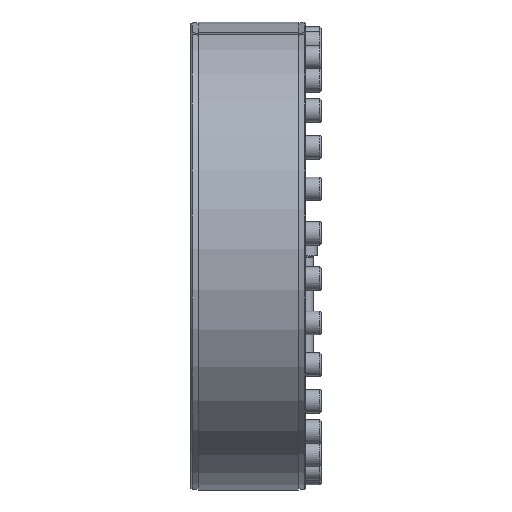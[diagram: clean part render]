
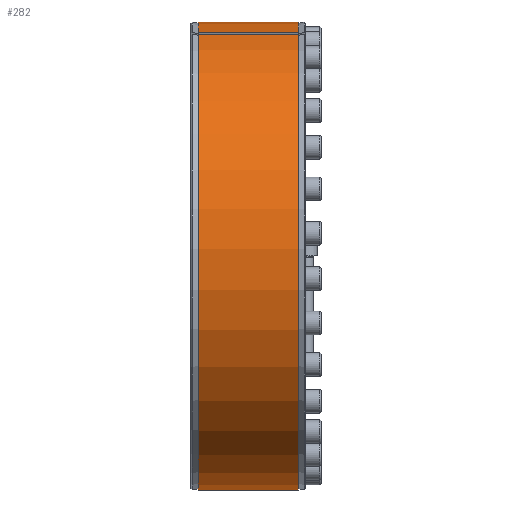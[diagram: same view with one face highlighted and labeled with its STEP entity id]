
A CAD part, left-side view. The second image highlights one B-rep face of the part: STEP entity #282.
In plain terms, the highlighted cylindrical face has radius 327.5 mm (diameter 655 mm), a partial arc.
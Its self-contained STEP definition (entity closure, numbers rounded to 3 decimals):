
#282 = ADVANCED_FACE( '', ( #799 ), #800, .T. );
#799 = FACE_OUTER_BOUND( '', #1491, .T. );
#800 = CYLINDRICAL_SURFACE( '', #1492, 327.5 );
#1491 = EDGE_LOOP( '', ( #2388, #2389, #2390, #2391 ) );
#1492 = AXIS2_PLACEMENT_3D( '', #2392, #2393, #2394 );
#2388 = ORIENTED_EDGE( '', *, *, #2909, .T. );
#2389 = ORIENTED_EDGE( '', *, *, #3148, .T. );
#2390 = ORIENTED_EDGE( '', *, *, #3149, .F. );
#2391 = ORIENTED_EDGE( '', *, *, #3150, .T. );
#2392 = CARTESIAN_POINT( '', ( 0., -60., 0. ) );
#2393 = DIRECTION( '', ( 0., 1., 0. ) );
#2394 = DIRECTION( '', ( 0., 0., -1. ) );
#2909 = EDGE_CURVE( '', #3345, #3343, #3346, .T. );
#3148 = EDGE_CURVE( '', #3343, #3755, #3756, .T. );
#3149 = EDGE_CURVE( '', #3757, #3755, #3758, .T. );
#3150 = EDGE_CURVE( '', #3757, #3345, #3759, .F. );
#3343 = VERTEX_POINT( '', #4084 );
#3345 = VERTEX_POINT( '', #4087 );
#3346 = CIRCLE( '', #4088, 327.5 );
#3755 = VERTEX_POINT( '', #4544 );
#3756 = LINE( '', #4545, #4546 );
#3757 = VERTEX_POINT( '', #4547 );
#3758 = CIRCLE( '', #4548, 327.5 );
#3759 = LINE( '', #4549, #4550 );
#4084 = CARTESIAN_POINT( '', ( -97.869, 150., 312.535 ) );
#4087 = CARTESIAN_POINT( '', ( -104.526, 150., 310.372 ) );
#4088 = AXIS2_PLACEMENT_3D( '', #4813, #4814, #4815 );
#4544 = CARTESIAN_POINT( '', ( -97.869, 10., 312.535 ) );
#4545 = CARTESIAN_POINT( '', ( -97.869, -60., 312.535 ) );
#4546 = VECTOR( '', #5292, 1000. );
#4547 = CARTESIAN_POINT( '', ( -104.526, 10., 310.372 ) );
#4548 = AXIS2_PLACEMENT_3D( '', #5293, #5294, #5295 );
#4549 = CARTESIAN_POINT( '', ( -104.526, -60., 310.372 ) );
#4550 = VECTOR( '', #5296, 1000. );
#4813 = CARTESIAN_POINT( '', ( 0., 150., 0. ) );
#4814 = DIRECTION( '', ( 0., -1., 0. ) );
#4815 = DIRECTION( '', ( 0., 0., -1. ) );
#5292 = DIRECTION( '', ( 0., -1., 0. ) );
#5293 = CARTESIAN_POINT( '', ( 0., 10., 0. ) );
#5294 = DIRECTION( '', ( 0., -1., 0. ) );
#5295 = DIRECTION( '', ( 0., 0., -1. ) );
#5296 = DIRECTION( '', ( 0., -1., 0. ) );
